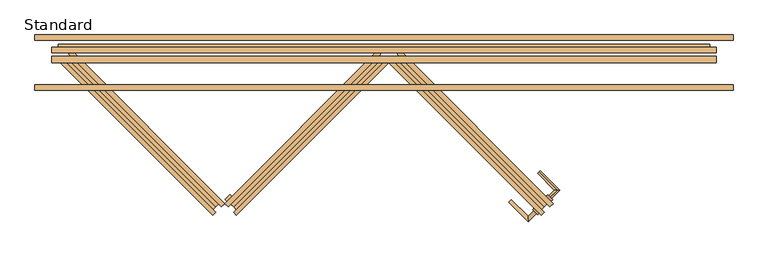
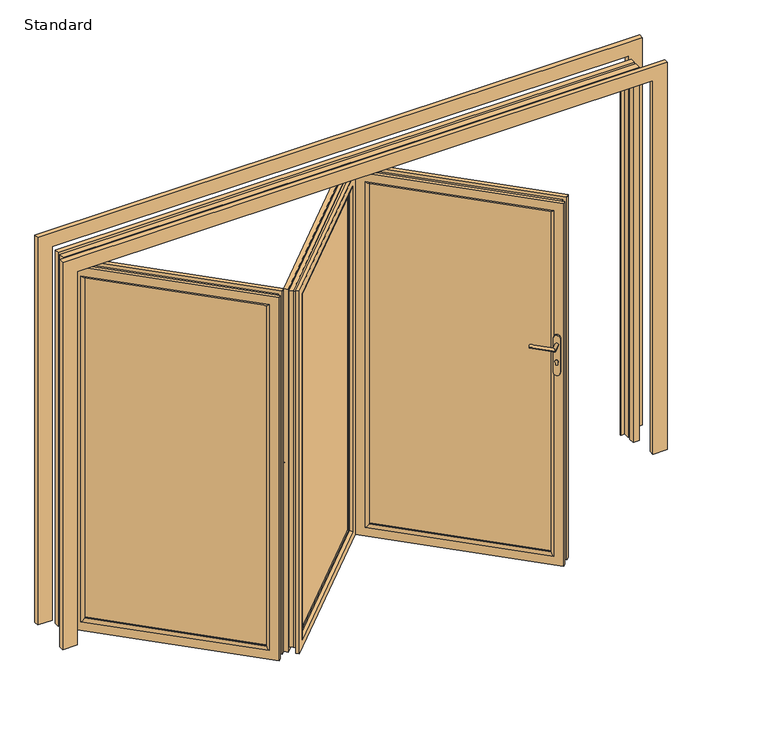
"""IFC4 building model written with IfcOpenShell, lengths in millimetres: door geometry, SMARTS_Visofold1000 : Standard."""

from ifc_helpers import new_model, si_unit, point, frame, frame_2d, origin, place, context, project, spatial, polyline, circle_curve, ellipse_curve, trimmed, segment, composite_curve, outline, extrude, faceted_brep, source, transform, mapped, element, save
from ifc_brep_helpers import plane_surface, cylinder_surface, advanced_brep


def standard_79affe37(model_context):
    return source(origin(), model_context, "Body", "SolidModel", [
        extrude(outline(composite_curve([segment(trimmed(circle_curve(frame_2d((0.0, -16.0)), 16.0), [point((0.0, 0.0))], [point((0.0, -32.0))], False, "CARTESIAN"), True, "CONTINUOUS"), segment(polyline([(0.0, -32.0), (-188.0, -32.0)]), True, "CONTINUOUS"), segment(trimmed(circle_curve(frame_2d((-188.0, -16.0)), 16.0), [point((-188.0, -32.0))], [point((-188.0, 0.0))], False, "CARTESIAN"), True, "CONTINUOUS"), segment(polyline([(-188.0, 0.0), (0.0, 0.0)]), True, "CONTINUOUS")], self_intersect=False)), frame((-686.8965859, -602.6906798, 1228.0996413), z_axis=(-0.7071067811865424, 0.7071067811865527, 0.0), x_axis=(0.0, 0.0, 1.0)), (0.0, 0.0, 1.0), 10.0),
        extrude(outline(polyline([(867.8333333, -15.5), (-15.5, -15.5), (-15.5, 1894.5), (867.8333333, 1894.5), (867.8333333, -15.5)]), holes=[polyline([(852.3333334, 1879.0), (0.0, 1879.0), (0.0, 0.0), (852.3333334, 0.0), (852.3333334, 1879.0)])]), frame((-33.2235071, -30.4763023, 60.5), z_axis=(-0.7071067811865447, 0.7071067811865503, 0.0), x_axis=(-0.7071067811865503, -0.7071067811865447, 0.0)), (0.0, 0.0, 1.0), 35.0),
        faceted_brep([(-718.9992338, -635.6418558, 0.0), (-703.4428846, -651.198205, 0.0), (-703.4428846, -651.198205, 2000.0), (-718.9992338, -635.6418558, 2000.0), (-660.6629243, -608.4182448, 60.5), (-676.2192735, -592.8618956, 60.5), (-676.2192735, -592.8618956, 1939.5), (-660.6629243, -608.4182448, 1939.5), (-15.1922842, 37.0523953, 2000.0), (-30.7486334, 52.6087445, 2000.0), (-73.5285937, 9.8287843, 1939.5), (-57.9722445, -5.7275649, 1939.5), (-15.1922842, 37.0523953, 0.0), (-30.7486334, 52.6087445, 0.0), (-73.5285937, 9.8287843, 60.5), (-57.9722445, -5.7275649, 60.5), (-678.3624095, -651.0078886, 17.8691481), (-15.3826007, 11.9719202, 17.8691481), (-15.3826007, 11.9719202, 1982.1308519), (-678.3624095, -651.0078886, 1982.1308519), (-659.1780001, -631.8234792, 1955.0), (-34.56701, -7.2124892, 1955.0), (-34.56701, -7.2124892, 45.0), (-659.1780001, -631.8234792, 45.0), (-690.8074888, -638.5628092, 17.8691481), (-690.8074888, -638.5628092, 1982.1308519), (-671.6230794, -619.3783999, 45.0), (-671.6230794, -619.3783999, 1955.0), (-27.82768, 24.4169996, 1982.1308519), (-47.0120894, 5.2325902, 1955.0), (-27.82768, 24.4169996, 17.8691481), (-47.0120894, 5.2325902, 45.0)], [[[0, 1, 2, 3]], [[4, 5, 6, 7]], [[3, 2, 8, 9]], [[7, 6, 10, 11]], [[9, 8, 12, 13]], [[11, 10, 14, 15]], [[13, 12, 1, 0]], [[3, 9, 13, 0], [5, 14, 10, 6]], [[15, 14, 5, 4]], [[16, 17, 18, 19], [20, 21, 22, 23]], [[24, 16, 19, 25]], [[23, 26, 27, 20]], [[25, 19, 18, 28]], [[20, 27, 29, 21]], [[28, 18, 17, 30]], [[21, 29, 31, 22]], [[30, 17, 16, 24]], [[1, 12, 8, 2], [25, 28, 30, 24]], [[26, 31, 29, 27], [7, 11, 15, 4]], [[22, 31, 26, 23]]]),
        advanced_brep(
        [(-633.0150492, -636.0661199, 60.5), (-635.914187, -633.1669821, 60.5), (-635.914187, -633.1669821, 1939.5), (-633.0150492, -636.0661199, 1939.5), (-678.6941472, -675.9469424, 0.0), (-666.3904892, -688.2506004, 0.0), (-666.3904892, -688.2506004, 2000.0), (-678.6941472, -675.9469424, 2000.0), (-33.2235071, -30.4763023, 1939.5), (-30.3243693, -33.3754401, 1939.5), (21.8601111, 0.0, 2000.0), (9.5564531, 12.303658, 2000.0), (-33.2235071, -30.4763023, 60.5), (-30.3243693, -33.3754401, 60.5), (21.8601111, 0.0, 0.0), (9.5564531, 12.303658, 0.0), (-633.0150492, -654.8751603, 1952.8), (-11.515329, -33.3754401, 1952.8), (-11.515329, -33.3754401, 47.2), (-633.0150492, -654.8751603, 47.2), (-678.3624095, -651.0078886, 17.8691481), (-666.0587515, -663.3115466, 17.8691481), (-666.0587515, -663.3115466, 1982.1308519), (-678.3624095, -651.0078886, 1982.1308519), (-3.0789427, -0.3317378, 1982.1308519), (-15.3826007, 11.9719202, 1982.1308519), (-3.0789427, -0.3317378, 17.8691481), (-15.3826007, 11.9719202, 17.8691481), (-646.8743421, -644.1271372, 45.0), (-659.1780001, -631.8234792, 45.0), (-659.1780001, -631.8234792, 1955.0), (-646.8743421, -644.1271372, 1955.0), (-34.56701, -7.2124892, 1955.0), (-22.263352, -19.5161472, 1955.0), (-34.56701, -7.2124892, 45.0), (-22.263352, -19.5161472, 45.0)],
        [
            (0, 1),
            (1, 2),
            (2, 3),
            (3, 0),
            (4, 5),
            (5, 6),
            (6, 7),
            (7, 4),
            (2, 8),
            (8, 9),
            (9, 3),
            (6, 10),
            (10, 11),
            (11, 7),
            (8, 12),
            (12, 13),
            (13, 9),
            (10, 14),
            (14, 15),
            (15, 11),
            (12, 1),
            (0, 13),
            (5, 14),
            (16, 17),
            (17, 18),
            (18, 19),
            (19, 16),
            (4, 15),
            (19, 0, ellipse_curve(frame((-642.4195694, -645.4706401, 47.2), z_axis=(-0.5000000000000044, -0.499999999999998, 0.7071067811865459), x_axis=(-0.49999999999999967, -0.49999999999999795, -0.7071067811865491)), 18.8090404, 13.3)),
            (3, 16, ellipse_curve(frame((-642.4195694, -645.4706401, 1952.8), z_axis=(-0.49999999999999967, -0.4999999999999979, -0.7071067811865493), x_axis=(0.5000000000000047, 0.4999999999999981, -0.7071067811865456)), 18.8090404, 13.3)),
            (9, 17, ellipse_curve(frame((-20.9198492, -23.9709199, 1952.8), z_axis=(-0.5000000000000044, -0.49999999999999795, 0.7071067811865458), x_axis=(-0.4999999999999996, -0.49999999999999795, -0.7071067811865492)), 18.8090404, 13.3)),
            (13, 18, ellipse_curve(frame((-20.9198492, -23.9709199, 47.2), z_axis=(0.4999999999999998, 0.499999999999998, 0.707106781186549), x_axis=(-0.5000000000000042, -0.4999999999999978, 0.7071067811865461)), 18.8090404, 13.3)),
            (20, 21),
            (21, 22),
            (22, 23),
            (23, 20),
            (22, 24),
            (24, 25),
            (25, 23),
            (24, 26),
            (26, 27),
            (27, 25),
            (21, 26),
            (20, 27),
            (28, 29),
            (29, 30),
            (30, 31),
            (31, 28),
            (30, 32),
            (32, 33),
            (33, 31),
            (32, 34),
            (34, 35),
            (35, 33),
            (34, 29),
            (28, 35),
        ],
        [
            plane_surface(frame((-635.914187, -633.1669821, 60.5), z_axis=(0.7071067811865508, 0.7071067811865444, 0.0), x_axis=(0.0, 0.0, 1.0))),
            plane_surface(frame((-666.3904892, -688.2506004, 0.0), z_axis=(-0.7071067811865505, -0.7071067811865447, 0.0), x_axis=(0.0, 0.0, 1.0))),
            plane_surface(frame((-635.914187, -633.1669821, 1939.5), z_axis=(0.0, 0.0, -1.0000000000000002), x_axis=(0.7071067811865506, 0.7071067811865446, 0.0))),
            plane_surface(frame((-666.3904892, -688.2506004, 2000.0), z_axis=(0.0, 0.0, 1.0), x_axis=(0.7071067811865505, 0.7071067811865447, 0.0))),
            plane_surface(frame((-33.2235071, -30.4763023, 1939.5), z_axis=(-0.7071067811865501, -0.7071067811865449, 0.0), x_axis=(0.0, 0.0, -1.0))),
            plane_surface(frame((21.8601111, 0.0, 2000.0), z_axis=(0.7071067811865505, 0.7071067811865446, 0.0), x_axis=(0.0, 0.0, -1.0))),
            plane_surface(frame((-33.2235071, -30.4763023, 60.5), z_axis=(0.0, 0.0, 1.0), x_axis=(-0.7071067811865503, -0.7071067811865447, 0.0))),
            plane_surface(frame((-11.515329, -33.3754401, 47.2), z_axis=(0.7071067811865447, -0.7071067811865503, 0.0), x_axis=(-0.7071067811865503, -0.7071067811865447, 0.0))),
            plane_surface(frame((21.8601111, 0.0, 0.0), z_axis=(0.0, 0.0, -1.0), x_axis=(-0.7071067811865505, -0.7071067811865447, 0.0))),
            cylinder_surface(frame((-642.4195694, -645.4706401, 0.0), z_axis=(0.0, 0.0, -1.0), x_axis=(-0.7071067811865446, 0.7071067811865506, 0.0)), 13.3),
            cylinder_surface(frame((-675.7950094, -678.8460802, 1952.8), z_axis=(-0.7071067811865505, -0.7071067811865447, 0.0), x_axis=(-0.7071067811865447, 0.7071067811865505, 0.0)), 13.3),
            cylinder_surface(frame((-20.9198492, -23.9709199, 2000.0), z_axis=(0.0, 0.0, 1.0000000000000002), x_axis=(-0.7071067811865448, 0.7071067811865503, 0.0)), 13.3),
            cylinder_surface(frame((12.4555909, 9.4045202, 47.2), z_axis=(0.7071067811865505, 0.7071067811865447, 0.0), x_axis=(-0.7071067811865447, 0.7071067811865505, 0.0)), 13.3),
            plane_surface(frame((-666.0587515, -663.3115466, 17.8691481), z_axis=(-0.7071067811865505, -0.7071067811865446, 0.0), x_axis=(0.0, 0.0, 1.0))),
            plane_surface(frame((-666.0587515, -663.3115466, 1982.1308519), z_axis=(0.0, 0.0, 1.0), x_axis=(0.7071067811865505, 0.7071067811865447, 0.0))),
            plane_surface(frame((-3.0789427, -0.3317378, 1982.1308519), z_axis=(0.7071067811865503, 0.7071067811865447, 0.0), x_axis=(0.0, 0.0, -1.0))),
            plane_surface(frame((9.5564531, 12.303658, 0.0), z_axis=(-0.7071067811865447, 0.7071067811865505, 0.0), x_axis=(-0.7071067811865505, -0.7071067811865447, 0.0))),
            plane_surface(frame((-3.0789427, -0.3317378, 17.8691481), z_axis=(0.0, 0.0, -1.0), x_axis=(-0.7071067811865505, -0.7071067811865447, 0.0))),
            plane_surface(frame((-659.1780001, -631.8234792, 45.0), z_axis=(0.7071067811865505, 0.7071067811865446, 0.0), x_axis=(0.0, 0.0, 1.0))),
            plane_surface(frame((-659.1780001, -631.8234792, 1955.0), z_axis=(0.0, 0.0, -1.0), x_axis=(0.7071067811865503, 0.7071067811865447, 0.0))),
            plane_surface(frame((-34.56701, -7.2124892, 1955.0), z_axis=(-0.7071067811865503, -0.7071067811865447, 0.0), x_axis=(0.0, 0.0, -1.0))),
            plane_surface(frame((-34.56701, -7.2124892, 45.0), z_axis=(0.0, 0.0, 1.0), x_axis=(-0.7071067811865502, -0.7071067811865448, 0.0))),
            plane_surface(frame((-22.263352, -19.5161472, 45.0), z_axis=(-0.7071067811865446, 0.7071067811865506, 0.0), x_axis=(-0.7071067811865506, -0.7071067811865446, 0.0))),
            plane_surface(frame((-15.3826007, 11.9719202, 17.8691481), z_axis=(-0.7071067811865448, 0.7071067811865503, 0.0), x_axis=(-0.7071067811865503, -0.7071067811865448, 0.0))),
        ],
        [
            (0, [[1, 2, 3, 4]]),
            (1, [[5, 6, 7, 8]]),
            (2, [[-3, 9, 10, 11]]),
            (3, [[-7, 12, 13, 14]]),
            (4, [[-10, 15, 16, 17]]),
            (5, [[-13, 18, 19, 20]]),
            (6, [[-16, 21, -1, 22]]),
            (7, [[23, -18, -12, -6], [24, 25, 26, 27]]),
            (8, [[-19, -23, -5, 28]]),
            (9, [[29, -4, 30, -27]]),
            (10, [[-30, -11, 31, -24]]),
            (11, [[-31, -17, 32, -25]]),
            (12, [[-32, -22, -29, -26]]),
            (13, [[33, 34, 35, 36]]),
            (14, [[-35, 37, 38, 39]]),
            (15, [[-38, 40, 41, 42]]),
            (16, [[-14, -20, -28, -8], [43, -40, -37, -34]]),
            (17, [[-41, -43, -33, 44]]),
            (18, [[45, 46, 47, 48]]),
            (19, [[-47, 49, 50, 51]]),
            (20, [[-50, 52, 53, 54]]),
            (21, [[-53, 55, -45, 56]]),
            (22, [[-51, -54, -56, -48], [-21, -15, -9, -2]]),
            (23, [[-39, -42, -44, -36], [-55, -52, -49, -46]]),
        ],
    ),
        extrude(outline(polyline([(-659.070858, -610.0103111), (-56.3801782, -7.3196312), (-36.0519343, -27.6478751), (-638.7426141, -630.338555), (-659.070858, -610.0103111)])), frame((0.0, 0.0, 60.5), z_axis=(0.0, 0.0, 1.0), x_axis=(1.0, 0.0, 0.0)), (0.0, 0.0, 1.0), 1879.0),
        advanced_brep(
        [(741.9305166, -614.0043883, 1232.5996413), (741.9305166, -614.0043883, 1215.5996413), (780.8213896, -575.1135154, 1232.5996413), (780.8213896, -575.1135154, 1215.5996413), (699.5041097, -493.7962355, 1232.5996413), (699.5041097, -493.7962355, 1215.5996413)],
        [
            (0, 1, circle_curve(frame((741.9305166, -614.0043883, 1224.0996413), z_axis=(-0.7071067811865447, -0.7071067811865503, 0.0), x_axis=(0.0, 0.0, -1.0)), 8.5)),
            (1, 0, circle_curve(frame((741.9305166, -614.0043883, 1224.0996413), z_axis=(-0.7071067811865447, -0.7071067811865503, 0.0), x_axis=(0.0, 0.0, -1.0)), 8.5)),
            (0, 2),
            (2, 3, ellipse_curve(frame((780.8213896, -575.1135154, 1224.0996413), z_axis=(0.0, -1.0, 0.0), x_axis=(-1.0, 0.0, 0.0)), 12.0208153, 8.5)),
            (3, 1),
            (3, 2, ellipse_curve(frame((780.8213896, -575.1135154, 1224.0996413), z_axis=(0.0, -1.0, 0.0), x_axis=(-1.0, 0.0, 0.0)), 12.0208153, 8.5)),
            (4, 5, circle_curve(frame((699.5041097, -493.7962355, 1224.0996413), z_axis=(-0.7071067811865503, 0.7071067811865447, 0.0), x_axis=(0.0, 0.0, -1.0)), 8.5)),
            (5, 4, circle_curve(frame((699.5041097, -493.7962355, 1224.0996413), z_axis=(-0.7071067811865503, 0.7071067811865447, 0.0), x_axis=(0.0, 0.0, -1.0)), 8.5)),
            (2, 4),
            (5, 3),
        ],
        [
            plane_surface(frame((741.9305166, -614.0043883, 1224.0996413), z_axis=(-0.7071067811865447, -0.7071067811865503, 0.0), x_axis=(0.0, 0.0, -1.0))),
            cylinder_surface(frame((741.9305166, -614.0043883, 1224.0996413), z_axis=(-0.7071067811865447, -0.7071067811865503, 0.0), x_axis=(0.0, 0.0, -1.0)), 8.5),
            plane_surface(frame((699.5041097, -493.7962355, 1224.0996413), z_axis=(-0.7071067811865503, 0.7071067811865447, 0.0), x_axis=(0.0, 0.0, -1.0))),
            cylinder_surface(frame((780.8213896, -575.1135154, 1224.0996413), z_axis=(0.7071067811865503, -0.7071067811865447, 0.0), x_axis=(0.0, 0.0, -1.0)), 8.5),
        ],
        [
            (0, [[1, 2]]),
            (1, [[3, 4, 5, -1]]),
            (1, [[-5, 6, -3, -2]]),
            (2, [[7, 8]]),
            (3, [[9, -8, 10, -4]]),
            (3, [[-10, -7, -9, -6]]),
        ],
    ),
        extrude(outline(composite_curve([segment(polyline([(0.0, 0.0), (-188.0, 0.0)]), True, "CONTINUOUS"), segment(trimmed(circle_curve(frame_2d((-188.0, 16.0)), 16.0), [point((-188.0, 0.0))], [point((-188.0, 32.0))], False, "CARTESIAN"), True, "CONTINUOUS"), segment(polyline([(-188.0, 32.0), (0.0, 32.0)]), True, "CONTINUOUS"), segment(trimmed(circle_curve(frame_2d((0.0, 16.0)), 16.0), [point((0.0, 32.0))], [point((0.0, 0.0))], False, "CARTESIAN"), True, "CONTINUOUS")], self_intersect=False)), frame((730.6168081, -602.6906798, 1258.0996413), z_axis=(0.7071067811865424, 0.7071067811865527, 0.0), x_axis=(0.0, 0.0, 1.0)), (0.0, 0.0, 1.0), 10.0),
        advanced_brep(
        [(682.8871004, -661.0269893, 1224.0996413), (694.9079157, -673.0478046, 1224.0996413), (650.0066351, -717.9490852, 1224.0996413), (650.0066351, -693.9074546, 1224.0996413), (574.6997629, -618.6005824, 1224.0996413), (562.6789476, -630.6213977, 1224.0996413)],
        [
            (0, 1, circle_curve(frame((688.897508, -667.0373969, 1224.0996413), z_axis=(0.7071067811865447, 0.7071067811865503, 0.0), x_axis=(0.7071067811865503, -0.7071067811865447, 0.0)), 8.5)),
            (1, 0, circle_curve(frame((688.897508, -667.0373969, 1224.0996413), z_axis=(0.7071067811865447, 0.7071067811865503, 0.0), x_axis=(0.7071067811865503, -0.7071067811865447, 0.0)), 8.5)),
            (1, 2),
            (2, 3, ellipse_curve(frame((650.0066351, -705.9282699, 1224.0996413), z_axis=(1.0, 0.0, 0.0), x_axis=(0.0, 1.0, 0.0)), 12.0208153, 8.5)),
            (3, 0),
            (3, 2, ellipse_curve(frame((650.0066351, -705.9282699, 1224.0996413), z_axis=(1.0, 0.0, 0.0), x_axis=(0.0, 1.0, 0.0)), 12.0208153, 8.5)),
            (4, 5, circle_curve(frame((568.6893552, -624.61099, 1224.0996413), z_axis=(-0.7071067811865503, 0.7071067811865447, 0.0), x_axis=(-0.7071067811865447, -0.7071067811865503, 0.0)), 8.5)),
            (5, 4, circle_curve(frame((568.6893552, -624.61099, 1224.0996413), z_axis=(-0.7071067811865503, 0.7071067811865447, 0.0), x_axis=(-0.7071067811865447, -0.7071067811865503, 0.0)), 8.5)),
            (2, 5),
            (4, 3),
        ],
        [
            plane_surface(frame((688.897508, -667.0373969, 1224.0996413), z_axis=(0.7071067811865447, 0.7071067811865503, 0.0), x_axis=(0.0, 0.0, -1.0))),
            cylinder_surface(frame((688.897508, -667.0373969, 1224.0996413), z_axis=(0.7071067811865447, 0.7071067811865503, 0.0), x_axis=(0.7071067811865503, -0.7071067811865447, 0.0)), 8.5),
            plane_surface(frame((568.6893552, -624.61099, 1224.0996413), z_axis=(-0.7071067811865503, 0.7071067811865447, 0.0), x_axis=(0.0, 0.0, -1.0))),
            cylinder_surface(frame((650.0066351, -705.9282699, 1224.0996413), z_axis=(0.7071067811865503, -0.7071067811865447, 0.0), x_axis=(-0.7071067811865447, -0.7071067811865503, 0.0)), 8.5),
        ],
        [
            (0, [[1, 2]]),
            (1, [[3, 4, 5, -2]]),
            (1, [[-5, 6, -3, -1]]),
            (2, [[7, 8]]),
            (3, [[9, -7, 10, -4]]),
            (3, [[-10, -8, -9, -6]]),
        ],
    ),
        extrude(outline(composite_curve([segment(polyline([(0.0, 32.0), (188.0, 32.0)]), True, "CONTINUOUS"), segment(trimmed(circle_curve(frame_2d((188.0, 16.0)), 16.0), [point((188.0, 32.0))], [point((188.0, 0.0))], False, "CARTESIAN"), True, "CONTINUOUS"), segment(polyline([(188.0, 0.0), (0.0, 0.0)]), True, "CONTINUOUS"), segment(trimmed(circle_curve(frame_2d((0.0, 16.0)), 16.0), [point((0.0, 0.0))], [point((0.0, 32.0))], False, "CARTESIAN"), True, "CONTINUOUS")], self_intersect=False)), frame((693.1401487, -685.4221732, 1258.0996413), z_axis=(0.7071067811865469, 0.7071067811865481, 0.0), x_axis=(0.0, 0.0, -1.0)), (0.0, 0.0, 1.0), 10.0),
        extrude(outline(composite_curve([segment(polyline([(-6.9226827, 3.5678136), (-14.5, 3.5678136)]), True, "CONTINUOUS"), segment(trimmed(circle_curve(frame_2d((-14.5, 8.5678136)), 5.0), [point((-14.5, 3.5678136))], [point((-14.5, 13.5678136))], False, "CARTESIAN"), True, "CONTINUOUS"), segment(polyline([(-14.5, 13.5678136), (-6.8240213, 13.5678136)]), True, "CONTINUOUS"), segment(trimmed(circle_curve(frame_2d((0.0, 8.5000001)), 8.5), [point((-6.8240213, 13.5678136))], [point((-6.9226827, 3.5678136))], False, "CARTESIAN"), True, "CONTINUOUS")], self_intersect=False)), frame((742.9507369, -600.882473, 1132.0996413), z_axis=(0.7071067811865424, 0.7071067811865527, 0.0), x_axis=(0.0, 0.0, 1.0)), (0.0, 0.0, 1.0), 2.0),
        extrude(outline(composite_curve([segment(polyline([(6.9226827, 13.4321866), (14.5, 13.4321866)]), True, "CONTINUOUS"), segment(trimmed(circle_curve(frame_2d((14.5, 8.4321866)), 5.0), [point((14.5, 13.4321866))], [point((14.5, 3.4321866))], False, "CARTESIAN"), True, "CONTINUOUS"), segment(polyline([(14.5, 3.4321866), (6.8240213, 3.4321866)]), True, "CONTINUOUS"), segment(trimmed(circle_curve(frame_2d((0.0, 8.5)), 8.5), [point((6.8240213, 3.4321866))], [point((6.9226827, 13.4321866))], False, "CARTESIAN"), True, "CONTINUOUS")], self_intersect=False)), frame((686.3821945, -681.4926461, 1132.0996413), z_axis=(0.7071067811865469, 0.7071067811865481, 0.0), x_axis=(0.0, 0.0, -1.0)), (0.0, 0.0, 1.0), 2.0),
        extrude(outline(polyline([(867.8333333, 15.5), (867.8333333, -1894.5), (-15.5, -1894.5), (-15.5, 15.5), (867.8333333, 15.5)]), holes=[polyline([(852.3333333, -1879.0), (852.3333333, 0.0), (0.0, 0.0), (0.0, -1879.0), (852.3333333, -1879.0)])]), frame((76.9437294, -30.4763023, 60.5), z_axis=(0.7071067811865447, 0.7071067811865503, 0.0), x_axis=(0.7071067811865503, -0.7071067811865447, 0.0)), (0.0, 0.0, 1.0), 35.0),
        faceted_brep([(762.719456, -635.6418558, 0.0), (762.719456, -635.6418558, 2000.0), (747.1631068, -651.198205, 2000.0), (747.1631068, -651.198205, 0.0), (704.3831465, -608.4182448, 60.5), (704.3831465, -608.4182448, 1939.5), (719.9394957, -592.8618956, 1939.5), (719.9394957, -592.8618956, 60.5), (74.4688556, 52.6087445, 2000.0), (58.9125064, 37.0523953, 2000.0), (101.6924667, -5.7275649, 1939.5), (117.2488159, 9.8287843, 1939.5), (74.4688556, 52.6087445, 0.0), (58.9125064, 37.0523953, 0.0), (101.6924667, -5.7275649, 60.5), (117.2488159, 9.8287843, 60.5), (722.0826317, -651.0078886, 17.8691481), (722.0826317, -651.0078886, 1982.1308519), (59.1028229, 11.9719202, 1982.1308519), (59.1028229, 11.9719202, 17.8691481), (702.8982223, -631.8234792, 1955.0), (702.8982223, -631.8234792, 45.0), (78.2872322, -7.2124892, 45.0), (78.2872322, -7.2124892, 1955.0), (734.527711, -638.5628092, 17.8691481), (734.527711, -638.5628092, 1982.1308519), (715.3433016, -619.3783999, 1955.0), (715.3433016, -619.3783999, 45.0), (71.5479022, 24.4169996, 1982.1308519), (90.7323116, 5.2325902, 1955.0), (71.5479022, 24.4169996, 17.8691481), (90.7323116, 5.2325902, 45.0)], [[[0, 1, 2, 3]], [[4, 5, 6, 7]], [[1, 8, 9, 2]], [[5, 10, 11, 6]], [[8, 12, 13, 9]], [[10, 14, 15, 11]], [[12, 0, 3, 13]], [[1, 0, 12, 8], [7, 6, 11, 15]], [[14, 4, 7, 15]], [[16, 17, 18, 19], [20, 21, 22, 23]], [[24, 25, 17, 16]], [[21, 20, 26, 27]], [[25, 28, 18, 17]], [[20, 23, 29, 26]], [[28, 30, 19, 18]], [[23, 22, 31, 29]], [[30, 24, 16, 19]], [[3, 2, 9, 13], [25, 24, 30, 28]], [[27, 26, 29, 31], [5, 4, 14, 10]], [[22, 21, 27, 31]]]),
        advanced_brep(
        [(676.7352714, -636.0661199, 60.5), (676.7352714, -636.0661199, 1939.5), (679.6344092, -633.1669821, 1939.5), (679.6344092, -633.1669821, 60.5), (722.4143695, -675.9469424, 0.0), (722.4143695, -675.9469424, 2000.0), (710.1107115, -688.2506004, 2000.0), (710.1107115, -688.2506004, 0.0), (74.0445916, -33.3754401, 1939.5), (76.9437294, -30.4763023, 1939.5), (34.1637691, 12.303658, 2000.0), (21.8601111, 0.0, 2000.0), (74.0445916, -33.3754401, 60.5), (76.9437294, -30.4763023, 60.5), (34.1637691, 12.303658, 0.0), (21.8601111, 0.0, 0.0), (676.7352714, -654.8751603, 1952.8), (676.7352714, -654.8751603, 47.2), (55.2355512, -33.3754401, 47.2), (55.2355512, -33.3754401, 1952.8), (722.0826317, -651.0078886, 17.8691481), (722.0826317, -651.0078886, 1982.1308519), (709.7789737, -663.3115466, 1982.1308519), (709.7789737, -663.3115466, 17.8691481), (59.1028229, 11.9719202, 1982.1308519), (46.7991649, -0.3317378, 1982.1308519), (59.1028229, 11.9719202, 17.8691481), (46.7991649, -0.3317378, 17.8691481), (690.5945643, -644.1271372, 45.0), (690.5945643, -644.1271372, 1955.0), (702.8982223, -631.8234792, 1955.0), (702.8982223, -631.8234792, 45.0), (65.9835743, -19.5161472, 1955.0), (78.2872322, -7.2124892, 1955.0), (65.9835743, -19.5161472, 45.0), (78.2872322, -7.2124892, 45.0)],
        [
            (0, 1),
            (1, 2),
            (2, 3),
            (3, 0),
            (4, 5),
            (5, 6),
            (6, 7),
            (7, 4),
            (1, 8),
            (8, 9),
            (9, 2),
            (5, 10),
            (10, 11),
            (11, 6),
            (8, 12),
            (12, 13),
            (13, 9),
            (10, 14),
            (14, 15),
            (15, 11),
            (12, 0),
            (3, 13),
            (15, 7),
            (16, 17),
            (17, 18),
            (18, 19),
            (19, 16),
            (14, 4),
            (16, 1, ellipse_curve(frame((686.1397916, -645.4706401, 1952.8), z_axis=(0.49999999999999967, -0.4999999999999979, -0.7071067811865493), x_axis=(-0.5000000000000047, 0.4999999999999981, -0.7071067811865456)), 18.8090404, 13.3)),
            (0, 17, ellipse_curve(frame((686.1397916, -645.4706401, 47.2), z_axis=(0.5000000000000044, -0.499999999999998, 0.7071067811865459), x_axis=(0.49999999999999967, -0.49999999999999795, -0.7071067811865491)), 18.8090404, 13.3)),
            (19, 8, ellipse_curve(frame((64.6400714, -23.9709199, 1952.8), z_axis=(0.5000000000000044, -0.49999999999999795, 0.7071067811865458), x_axis=(0.4999999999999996, -0.49999999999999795, -0.7071067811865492)), 18.8090404, 13.3)),
            (18, 12, ellipse_curve(frame((64.6400714, -23.9709199, 47.2), z_axis=(-0.4999999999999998, 0.499999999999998, 0.707106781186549), x_axis=(0.5000000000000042, -0.4999999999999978, 0.7071067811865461)), 18.8090404, 13.3)),
            (20, 21),
            (21, 22),
            (22, 23),
            (23, 20),
            (21, 24),
            (24, 25),
            (25, 22),
            (24, 26),
            (26, 27),
            (27, 25),
            (27, 23),
            (26, 20),
            (28, 29),
            (29, 30),
            (30, 31),
            (31, 28),
            (29, 32),
            (32, 33),
            (33, 30),
            (32, 34),
            (34, 35),
            (35, 33),
            (34, 28),
            (31, 35),
        ],
        [
            plane_surface(frame((679.6344092, -633.1669821, 60.5), z_axis=(-0.7071067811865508, 0.7071067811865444, 0.0), x_axis=(0.0, 0.0, 1.0))),
            plane_surface(frame((710.1107115, -688.2506004, 0.0), z_axis=(0.7071067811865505, -0.7071067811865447, 0.0), x_axis=(0.0, 0.0, 1.0))),
            plane_surface(frame((679.6344092, -633.1669821, 1939.5), z_axis=(0.0, 0.0, -1.0000000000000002), x_axis=(-0.7071067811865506, 0.7071067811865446, 0.0))),
            plane_surface(frame((710.1107115, -688.2506004, 2000.0), z_axis=(0.0, 0.0, 1.0), x_axis=(-0.7071067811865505, 0.7071067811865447, 0.0))),
            plane_surface(frame((76.9437294, -30.4763023, 1939.5), z_axis=(0.7071067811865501, -0.7071067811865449, 0.0), x_axis=(0.0, 0.0, -1.0))),
            plane_surface(frame((21.8601111, 0.0, 2000.0), z_axis=(-0.7071067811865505, 0.7071067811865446, 0.0), x_axis=(0.0, 0.0, -1.0))),
            plane_surface(frame((76.9437294, -30.4763023, 60.5), z_axis=(0.0, 0.0, 1.0), x_axis=(0.7071067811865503, -0.7071067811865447, 0.0))),
            plane_surface(frame((55.2355512, -33.3754401, 47.2), z_axis=(-0.7071067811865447, -0.7071067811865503, 0.0), x_axis=(0.7071067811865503, -0.7071067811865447, 0.0))),
            plane_surface(frame((21.8601111, 0.0, 0.0), z_axis=(0.0, 0.0, -1.0), x_axis=(0.7071067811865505, -0.7071067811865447, 0.0))),
            cylinder_surface(frame((686.1397916, -645.4706401, 0.0), z_axis=(0.0, 0.0, -1.0), x_axis=(0.7071067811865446, 0.7071067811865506, 0.0)), 13.3),
            cylinder_surface(frame((719.5152317, -678.8460802, 1952.8), z_axis=(0.7071067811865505, -0.7071067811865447, 0.0), x_axis=(0.7071067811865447, 0.7071067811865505, 0.0)), 13.3),
            cylinder_surface(frame((64.6400714, -23.9709199, 2000.0), z_axis=(0.0, 0.0, 1.0000000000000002), x_axis=(0.7071067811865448, 0.7071067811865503, 0.0)), 13.3),
            cylinder_surface(frame((31.2646313, 9.4045202, 47.2), z_axis=(-0.7071067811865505, 0.7071067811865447, 0.0), x_axis=(0.7071067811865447, 0.7071067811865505, 0.0)), 13.3),
            plane_surface(frame((709.7789737, -663.3115466, 17.8691481), z_axis=(0.7071067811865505, -0.7071067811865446, 0.0), x_axis=(0.0, 0.0, 1.0))),
            plane_surface(frame((709.7789737, -663.3115466, 1982.1308519), z_axis=(0.0, 0.0, 1.0), x_axis=(-0.7071067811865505, 0.7071067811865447, 0.0))),
            plane_surface(frame((46.7991649, -0.3317378, 1982.1308519), z_axis=(-0.7071067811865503, 0.7071067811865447, 0.0), x_axis=(0.0, 0.0, -1.0))),
            plane_surface(frame((34.1637691, 12.303658, 0.0), z_axis=(0.7071067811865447, 0.7071067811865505, 0.0), x_axis=(0.7071067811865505, -0.7071067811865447, 0.0))),
            plane_surface(frame((46.7991649, -0.3317378, 17.8691481), z_axis=(0.0, 0.0, -1.0), x_axis=(0.7071067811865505, -0.7071067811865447, 0.0))),
            plane_surface(frame((702.8982223, -631.8234792, 45.0), z_axis=(-0.7071067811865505, 0.7071067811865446, 0.0), x_axis=(0.0, 0.0, 1.0))),
            plane_surface(frame((702.8982223, -631.8234792, 1955.0), z_axis=(0.0, 0.0, -1.0), x_axis=(-0.7071067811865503, 0.7071067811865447, 0.0))),
            plane_surface(frame((78.2872322, -7.2124892, 1955.0), z_axis=(0.7071067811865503, -0.7071067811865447, 0.0), x_axis=(0.0, 0.0, -1.0))),
            plane_surface(frame((78.2872322, -7.2124892, 45.0), z_axis=(0.0, 0.0, 1.0), x_axis=(0.7071067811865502, -0.7071067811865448, 0.0))),
            plane_surface(frame((65.9835743, -19.5161472, 45.0), z_axis=(0.7071067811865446, 0.7071067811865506, 0.0), x_axis=(0.7071067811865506, -0.7071067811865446, 0.0))),
            plane_surface(frame((59.1028229, 11.9719202, 17.8691481), z_axis=(0.7071067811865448, 0.7071067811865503, 0.0), x_axis=(0.7071067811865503, -0.7071067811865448, 0.0))),
        ],
        [
            (0, [[1, 2, 3, 4]]),
            (1, [[5, 6, 7, 8]]),
            (2, [[9, 10, 11, -2]]),
            (3, [[12, 13, 14, -6]]),
            (4, [[15, 16, 17, -10]]),
            (5, [[18, 19, 20, -13]]),
            (6, [[21, -4, 22, -16]]),
            (7, [[-7, -14, -20, 23], [24, 25, 26, 27]]),
            (8, [[28, -8, -23, -19]]),
            (9, [[-24, 29, -1, 30]]),
            (10, [[-27, 31, -9, -29]]),
            (11, [[-26, 32, -15, -31]]),
            (12, [[-25, -30, -21, -32]]),
            (13, [[33, 34, 35, 36]]),
            (14, [[37, 38, 39, -34]]),
            (15, [[40, 41, 42, -38]]),
            (16, [[-5, -28, -18, -12], [-35, -39, -42, 43]]),
            (17, [[44, -36, -43, -41]]),
            (18, [[45, 46, 47, 48]]),
            (19, [[49, 50, 51, -46]]),
            (20, [[52, 53, 54, -50]]),
            (21, [[55, -48, 56, -53]]),
            (22, [[-45, -55, -52, -49], [-3, -11, -17, -22]]),
            (23, [[-33, -44, -40, -37], [-47, -51, -54, -56]]),
        ],
    ),
        extrude(outline(polyline([(702.7910802, -610.0103111), (682.4628363, -630.338555), (79.7721565, -27.6478751), (100.1004004, -7.3196312), (702.7910802, -610.0103111)])), frame((0.0, 0.0, 60.5), z_axis=(0.0, 0.0, 1.0), x_axis=(1.0, 0.0, 0.0)), (0.0, 0.0, 1.0), 1879.0),
        extrude(outline(polyline([(867.8333333, 15.5), (867.8333333, -1894.5), (-15.5000001, -1894.5), (-15.5000001, 15.5), (867.8333333, 15.5)]), holes=[polyline([(852.3333333, -1879.0), (852.3333333, 0.0), (0.0, 0.0), (0.0, -1879.0), (852.3333333, -1879.0)])]), frame((-1404.9163817, -30.4763023, 60.5), z_axis=(0.7071067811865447, 0.7071067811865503, 0.0), x_axis=(0.7071067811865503, -0.7071067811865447, 0.0)), (0.0, 0.0, 1.0), 35.0),
        faceted_brep([(-719.1406551, -635.6418558, 0.0), (-719.1406551, -635.6418558, 2000.0), (-734.6970043, -651.198205, 2000.0), (-734.6970043, -651.198205, 0.0), (-777.4769646, -608.4182448, 60.5), (-777.4769646, -608.4182448, 1939.5), (-761.9206154, -592.8618956, 1939.5), (-761.9206154, -592.8618956, 60.5), (-1407.3912555, 52.6087445, 0.0), (-1422.9476047, 37.0523953, 0.0), (-1407.3912555, 52.6087445, 2000.0), (-1422.9476047, 37.0523953, 2000.0), (-1380.1676444, -5.7275649, 1939.5), (-1364.6112952, 9.8287843, 1939.5), (-1380.1676444, -5.7275649, 60.5), (-1364.6112952, 9.8287843, 60.5), (-759.7774794, -651.0078886, 17.8691481), (-759.7774794, -651.0078886, 1982.1308519), (-1422.7572882, 11.9719202, 1982.1308519), (-1422.7572882, 11.9719202, 17.8691481), (-778.9618888, -631.8234792, 1955.0), (-778.9618888, -631.8234792, 45.0), (-1403.5728789, -7.2124892, 45.0), (-1403.5728789, -7.2124892, 1955.0), (-747.3324001, -638.5628092, 17.8691481), (-747.3324001, -638.5628092, 1982.1308519), (-766.5168095, -619.3783999, 1955.0), (-766.5168095, -619.3783999, 45.0), (-1410.3122089, 24.4169996, 1982.1308519), (-1391.1277995, 5.2325902, 1955.0), (-1410.3122089, 24.4169996, 17.8691481), (-1391.1277995, 5.2325902, 45.0)], [[[0, 1, 2, 3]], [[4, 5, 6, 7]], [[8, 0, 3, 9]], [[1, 10, 11, 2]], [[5, 12, 13, 6]], [[10, 8, 9, 11]], [[12, 14, 15, 13]], [[1, 0, 8, 10], [7, 6, 13, 15]], [[14, 4, 7, 15]], [[16, 17, 18, 19], [20, 21, 22, 23]], [[24, 25, 17, 16]], [[21, 20, 26, 27]], [[25, 28, 18, 17]], [[20, 23, 29, 26]], [[28, 30, 19, 18]], [[23, 22, 31, 29]], [[30, 24, 16, 19]], [[3, 2, 11, 9], [25, 24, 30, 28]], [[27, 26, 29, 31], [5, 4, 14, 12]], [[22, 21, 27, 31]]]),
        advanced_brep(
        [(-805.1248397, -636.0661199, 60.5), (-805.1248397, -636.0661199, 1939.5), (-802.2257019, -633.1669821, 1939.5), (-802.2257019, -633.1669821, 60.5), (-759.4457417, -675.9469424, 0.0), (-759.4457417, -675.9469424, 2000.0), (-771.7493996, -688.2506004, 2000.0), (-771.7493996, -688.2506004, 0.0), (-1407.8155195, -33.3754401, 1939.5), (-1404.9163817, -30.4763023, 1939.5), (-1447.696342, 12.303658, 2000.0), (-1460.0, 0.0, 2000.0), (-1407.8155195, -33.3754401, 60.5), (-1404.9163817, -30.4763023, 60.5), (-1447.696342, 12.303658, 0.0), (-1460.0, 0.0, 0.0), (-805.1248397, -654.8751603, 1952.8), (-805.1248397, -654.8751603, 47.2), (-1426.6245599, -33.3754401, 47.2), (-1426.6245599, -33.3754401, 1952.8), (-759.7774794, -651.0078886, 17.8691481), (-759.7774794, -651.0078886, 1982.1308519), (-772.0811374, -663.3115466, 1982.1308519), (-772.0811374, -663.3115466, 17.8691481), (-1422.7572882, 11.9719202, 1982.1308519), (-1435.0609462, -0.3317378, 1982.1308519), (-1422.7572882, 11.9719202, 17.8691481), (-1435.0609462, -0.3317378, 17.8691481), (-791.2655468, -644.1271372, 45.0), (-791.2655468, -644.1271372, 1955.0), (-778.9618888, -631.8234792, 1955.0), (-778.9618888, -631.8234792, 45.0), (-1415.8765369, -19.5161472, 1955.0), (-1403.5728789, -7.2124892, 1955.0), (-1415.8765369, -19.5161472, 45.0), (-1403.5728789, -7.2124892, 45.0)],
        [
            (0, 1),
            (1, 2),
            (2, 3),
            (3, 0),
            (4, 5),
            (5, 6),
            (6, 7),
            (7, 4),
            (1, 8),
            (8, 9),
            (9, 2),
            (5, 10),
            (10, 11),
            (11, 6),
            (8, 12),
            (12, 13),
            (13, 9),
            (10, 14),
            (14, 15),
            (15, 11),
            (12, 0),
            (3, 13),
            (15, 7),
            (16, 17),
            (17, 18),
            (18, 19),
            (19, 16),
            (14, 4),
            (16, 1, ellipse_curve(frame((-795.7203195, -645.4706401, 1952.8), z_axis=(0.49999999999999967, -0.4999999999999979, -0.7071067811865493), x_axis=(-0.5000000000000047, 0.4999999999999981, -0.7071067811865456)), 18.8090404, 13.3)),
            (0, 17, ellipse_curve(frame((-795.7203195, -645.4706401, 47.2), z_axis=(0.5000000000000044, -0.499999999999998, 0.7071067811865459), x_axis=(0.49999999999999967, -0.49999999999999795, -0.7071067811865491)), 18.8090404, 13.3)),
            (19, 8, ellipse_curve(frame((-1417.2200397, -23.9709199, 1952.8), z_axis=(0.5000000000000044, -0.49999999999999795, 0.7071067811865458), x_axis=(0.4999999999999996, -0.49999999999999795, -0.7071067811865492)), 18.8090404, 13.3)),
            (18, 12, ellipse_curve(frame((-1417.2200397, -23.9709199, 47.2), z_axis=(-0.4999999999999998, 0.499999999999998, 0.707106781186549), x_axis=(0.5000000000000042, -0.4999999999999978, 0.7071067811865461)), 18.8090404, 13.3)),
            (20, 21),
            (21, 22),
            (22, 23),
            (23, 20),
            (21, 24),
            (24, 25),
            (25, 22),
            (24, 26),
            (26, 27),
            (27, 25),
            (27, 23),
            (26, 20),
            (28, 29),
            (29, 30),
            (30, 31),
            (31, 28),
            (29, 32),
            (32, 33),
            (33, 30),
            (32, 34),
            (34, 35),
            (35, 33),
            (34, 28),
            (31, 35),
        ],
        [
            plane_surface(frame((-802.2257019, -633.1669821, 60.5), z_axis=(-0.7071067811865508, 0.7071067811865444, 0.0), x_axis=(0.0, 0.0, 1.0))),
            plane_surface(frame((-771.7493996, -688.2506004, 0.0), z_axis=(0.7071067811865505, -0.7071067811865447, 0.0), x_axis=(0.0, 0.0, 1.0))),
            plane_surface(frame((-802.2257019, -633.1669821, 1939.5), z_axis=(0.0, 0.0, -1.0000000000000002), x_axis=(-0.7071067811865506, 0.7071067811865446, 0.0))),
            plane_surface(frame((-771.7493996, -688.2506004, 2000.0), z_axis=(0.0, 0.0, 1.0), x_axis=(-0.7071067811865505, 0.7071067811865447, 0.0))),
            plane_surface(frame((-1404.9163817, -30.4763023, 1939.5), z_axis=(0.7071067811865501, -0.7071067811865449, 0.0), x_axis=(0.0, 0.0, -1.0))),
            plane_surface(frame((-1460.0, 0.0, 2000.0), z_axis=(-0.7071067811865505, 0.7071067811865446, 0.0), x_axis=(0.0, 0.0, -1.0))),
            plane_surface(frame((-1404.9163817, -30.4763023, 60.5), z_axis=(0.0, 0.0, 1.0), x_axis=(0.7071067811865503, -0.7071067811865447, 0.0))),
            plane_surface(frame((-1426.6245599, -33.3754401, 47.2), z_axis=(-0.7071067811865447, -0.7071067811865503, 0.0), x_axis=(0.7071067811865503, -0.7071067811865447, 0.0))),
            plane_surface(frame((-1460.0, 0.0, 0.0), z_axis=(0.0, 0.0, -1.0), x_axis=(0.7071067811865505, -0.7071067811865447, 0.0))),
            cylinder_surface(frame((-795.7203195, -645.4706401, 0.0), z_axis=(0.0, 0.0, -1.0), x_axis=(0.7071067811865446, 0.7071067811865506, 0.0)), 13.3),
            cylinder_surface(frame((-762.3448795, -678.8460802, 1952.8), z_axis=(0.7071067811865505, -0.7071067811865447, 0.0), x_axis=(0.7071067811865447, 0.7071067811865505, 0.0)), 13.3),
            cylinder_surface(frame((-1417.2200397, -23.9709199, 2000.0), z_axis=(0.0, 0.0, 1.0000000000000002), x_axis=(0.7071067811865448, 0.7071067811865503, 0.0)), 13.3),
            cylinder_surface(frame((-1450.5954798, 9.4045202, 47.2), z_axis=(-0.7071067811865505, 0.7071067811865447, 0.0), x_axis=(0.7071067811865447, 0.7071067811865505, 0.0)), 13.3),
            plane_surface(frame((-772.0811374, -663.3115466, 17.8691481), z_axis=(0.7071067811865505, -0.7071067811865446, 0.0), x_axis=(0.0, 0.0, 1.0))),
            plane_surface(frame((-772.0811374, -663.3115466, 1982.1308519), z_axis=(0.0, 0.0, 1.0), x_axis=(-0.7071067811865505, 0.7071067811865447, 0.0))),
            plane_surface(frame((-1435.0609462, -0.3317378, 1982.1308519), z_axis=(-0.7071067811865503, 0.7071067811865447, 0.0), x_axis=(0.0, 0.0, -1.0))),
            plane_surface(frame((-1447.696342, 12.303658, 0.0), z_axis=(0.7071067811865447, 0.7071067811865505, 0.0), x_axis=(0.7071067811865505, -0.7071067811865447, 0.0))),
            plane_surface(frame((-1435.0609462, -0.3317378, 17.8691481), z_axis=(0.0, 0.0, -1.0), x_axis=(0.7071067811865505, -0.7071067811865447, 0.0))),
            plane_surface(frame((-778.9618888, -631.8234792, 45.0), z_axis=(-0.7071067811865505, 0.7071067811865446, 0.0), x_axis=(0.0, 0.0, 1.0))),
            plane_surface(frame((-778.9618888, -631.8234792, 1955.0), z_axis=(0.0, 0.0, -1.0), x_axis=(-0.7071067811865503, 0.7071067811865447, 0.0))),
            plane_surface(frame((-1403.5728789, -7.2124892, 1955.0), z_axis=(0.7071067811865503, -0.7071067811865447, 0.0), x_axis=(0.0, 0.0, -1.0))),
            plane_surface(frame((-1403.5728789, -7.2124892, 45.0), z_axis=(0.0, 0.0, 1.0), x_axis=(0.7071067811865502, -0.7071067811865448, 0.0))),
            plane_surface(frame((-1415.8765369, -19.5161472, 45.0), z_axis=(0.7071067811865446, 0.7071067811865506, 0.0), x_axis=(0.7071067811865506, -0.7071067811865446, 0.0))),
            plane_surface(frame((-1422.7572882, 11.9719202, 17.8691481), z_axis=(0.7071067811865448, 0.7071067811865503, 0.0), x_axis=(0.7071067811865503, -0.7071067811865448, 0.0))),
        ],
        [
            (0, [[1, 2, 3, 4]]),
            (1, [[5, 6, 7, 8]]),
            (2, [[9, 10, 11, -2]]),
            (3, [[12, 13, 14, -6]]),
            (4, [[15, 16, 17, -10]]),
            (5, [[18, 19, 20, -13]]),
            (6, [[21, -4, 22, -16]]),
            (7, [[-7, -14, -20, 23], [24, 25, 26, 27]]),
            (8, [[28, -8, -23, -19]]),
            (9, [[-24, 29, -1, 30]]),
            (10, [[-27, 31, -9, -29]]),
            (11, [[-26, 32, -15, -31]]),
            (12, [[-25, -30, -21, -32]]),
            (13, [[33, 34, 35, 36]]),
            (14, [[37, 38, 39, -34]]),
            (15, [[40, 41, 42, -38]]),
            (16, [[-5, -28, -18, -12], [-35, -39, -42, 43]]),
            (17, [[44, -36, -43, -41]]),
            (18, [[45, 46, 47, 48]]),
            (19, [[49, 50, 51, -46]]),
            (20, [[52, 53, 54, -50]]),
            (21, [[55, -48, 56, -53]]),
            (22, [[-45, -55, -52, -49], [-3, -11, -17, -22]]),
            (23, [[-33, -44, -40, -37], [-47, -51, -54, -56]]),
        ],
    ),
        extrude(outline(polyline([(-779.0690309, -610.0103111), (-799.3972748, -630.338555), (-1402.0879546, -27.6478751), (-1381.7597107, -7.3196312), (-779.0690309, -610.0103111)])), frame((0.0, 0.0, 60.5), z_axis=(0.0, 0.0, 1.0), x_axis=(1.0, 0.0, 0.0)), (0.0, 0.0, 1.0), 1879.0),
        extrude(outline(polyline([(2058.6516063, -1500.0), (2058.6516063, 1500.0), (0.0, 1500.0), (0.0, 1575.0), (2133.6516063, 1575.0), (2133.6516063, -1575.0), (0.0, -1575.0), (0.0, -1500.0), (2058.6516063, -1500.0)])), frame((0.0, 100.0, 0.0), z_axis=(0.0, 1.0, 0.0), x_axis=(0.0, 0.0, 1.0)), (0.0, 0.0, 1.0), 25.0),
        extrude(outline(polyline([(2133.6516063, -1575.0), (0.0, -1575.0), (0.0, -1500.0), (2058.6516063, -1500.0), (2058.6516063, 1500.0), (0.0, 1500.0), (0.0, 1575.0), (2133.6516063, 1575.0), (2133.6516063, -1575.0)])), frame((0.0, -125.0, 0.0), z_axis=(0.0, 1.0, 0.0), x_axis=(0.0, 0.0, 1.0)), (0.0, 0.0, 1.0), 25.0),
        extrude(outline(polyline([(0.0, 1468.8), (0.0, 1500.0), (2058.6516063, 1500.0), (2058.6516063, -1500.0), (0.0, -1500.0), (0.0, -1468.8), (2027.4516063, -1468.8), (2027.4516063, 1468.8), (0.0, 1468.8)])), frame((0.0, 0.0, 0.0), z_axis=(0.0, 1.0, 0.0), x_axis=(0.0, 0.0, 1.0)), (0.0, 0.0, 1.0), 29.65),
        faceted_brep([(1500.0, 44.85, 0.0), (1468.8, 44.85, 0.0), (1468.8, 77.4, 0.0), (1448.3, 77.4, 0.0), (1448.3, 81.9, 0.0), (1470.6, 81.9, 0.0), (1470.6, 70.0, 0.0), (1500.0, 70.0, 0.0), (1500.0, 44.85, 2058.6516063), (-1500.0, 44.85, 2058.6516063), (-1500.0, 44.85, 0.0), (-1468.8, 44.85, 0.0), (-1468.8, 44.85, 2027.4516063), (1468.8, 44.85, 2027.4516063), (1468.8, 77.4, 2027.4516063), (-1468.8, 77.4, 2027.4516063), (-1468.8, 77.4, 0.0), (-1448.3, 77.4, 0.0), (-1448.3, 77.4, 2006.9516063), (1448.3, 77.4, 2006.9516063), (1448.3, 81.9, 2006.9516063), (-1448.3, 81.9, 2006.9516063), (-1448.3, 81.9, 0.0), (-1470.6, 81.9, 0.0), (-1470.6, 81.9, 2029.2516063), (1470.6, 81.9, 2029.2516063), (1470.6, 70.0, 2029.2516063), (-1470.6, 70.0, 2029.2516063), (-1470.6, 70.0, 0.0), (-1500.0, 70.0, 0.0), (-1500.0, 70.0, 2058.6516063), (1500.0, 70.0, 2058.6516063)], [[[0, 1, 2, 3, 4, 5, 6, 7]], [[1, 0, 8, 9, 10, 11, 12, 13]], [[2, 1, 13, 14]], [[3, 2, 14, 15, 16, 17, 18, 19]], [[4, 3, 19, 20]], [[5, 4, 20, 21, 22, 23, 24, 25]], [[6, 5, 25, 26]], [[7, 6, 26, 27, 28, 29, 30, 31]], [[0, 7, 31, 8]], [[10, 29, 28, 23, 22, 17, 16, 11]], [[9, 30, 29, 10]], [[27, 24, 23, 28]], [[21, 18, 17, 22]], [[15, 12, 11, 16]], [[8, 31, 30, 9]], [[14, 13, 12, 15]], [[26, 25, 24, 27]], [[20, 19, 18, 21]]]),
    ])


if __name__ == "__main__":
    model = new_model("IFC4")
    model_context = context("Model", 3, world=origin())
    ifc_project = project(units=[si_unit("LENGTHUNIT", "METRE", prefix="MILLI")], contexts=[model_context])
    site = spatial("IfcSite", under=ifc_project)
    building = spatial("IfcBuilding", under=site)
    placement = place(None, origin())
    standard_shape = standard_79affe37(model_context)
    element("IfcDoor", 1, ObjectType="SMARTS_Visofold1000 : Standard", at=placement, inside=building, context=model_context, shape_type="MappedRepresentation", body=[
        mapped(standard_shape, transform((0.0, 0.0, 0.0), x_axis=(1.0, 0.0, 0.0), y_axis=(0.0, 1.0, 0.0), z_axis=(0.0, 0.0, 1.0))),
    ])
    save(model, "model.ifc")
